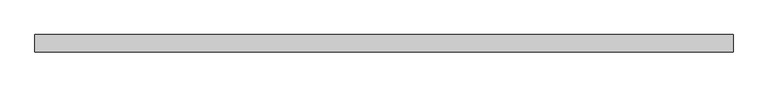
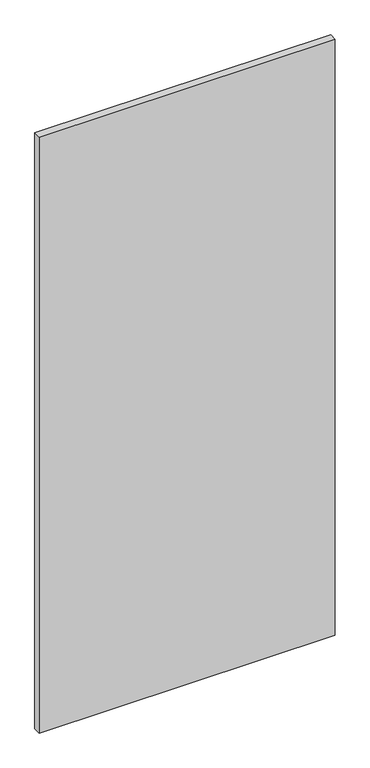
"""IFC4 building model written with IfcOpenShell, lengths in millimetres: plate geometry, 系统嵌板 : 玻璃."""

from ifc_helpers import new_model, si_unit, origin, origin_with_axes, place, context, project, spatial, polyline, outline, extrude, source, transform, mapped, element, save


def plate_ae12a68d(model_context):
    return source(origin(), model_context, "Body", "SweptSolid", [
        extrude(outline(polyline([(510.0000124, -12.5), (-510.0000124, -12.5), (-510.0000124, 12.5), (510.0000124, 12.5), (510.0000124, -12.5)])), origin_with_axes(), (0.0, 0.0, 1.0), 2170.0),
    ])


if __name__ == "__main__":
    model = new_model("IFC4")
    model_context = context("Model", 3, world=origin())
    ifc_project = project(units=[si_unit("LENGTHUNIT", "METRE", prefix="MILLI")], contexts=[model_context])
    site = spatial("IfcSite", under=ifc_project)
    building = spatial("IfcBuilding", under=site)
    placement = place(None, origin())
    plate_shape = plate_ae12a68d(model_context)
    element("IfcPlate", 1, ObjectType="系统嵌板 : 玻璃", at=placement, inside=building, context=model_context, shape_type="MappedRepresentation", body=[
        mapped(plate_shape, transform((0.0, 0.0, 0.0), x_axis=(1.0, 0.0, 0.0), y_axis=(0.0, 1.0, 0.0), z_axis=(0.0, 0.0, 1.0))),
    ])
    save(model, "model.ifc")
